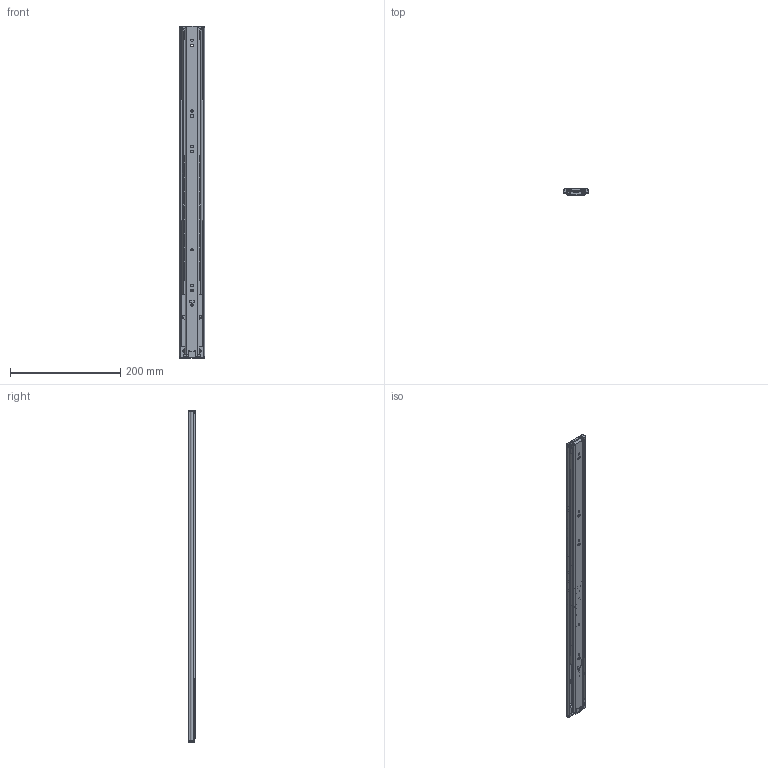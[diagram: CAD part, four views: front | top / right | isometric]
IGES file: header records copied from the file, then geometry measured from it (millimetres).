
Global section: file name: No Iges File Name specified; native system: Autodesk Inventor 2010; preprocessor: AutoDesk Inventor Iges Exporter R2010; author: jennes; date: 20110120.113650; units: millimetre
Bounding box: 45.98 x 12.5 x 601.1 mm (x, y, z)
Volume: 137085.8 mm3; surface area: 218776.5 mm2
Topology: 73 solids, 73 shells, 2018 faces, 6012 edges, 3769 vertices
Faces by surface type: plane 1063, cylinder 411, revolution 305, sphere 132, torus 59, bspline 48
